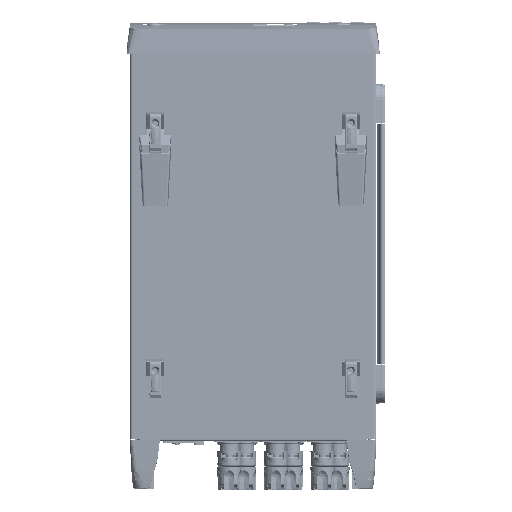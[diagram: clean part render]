
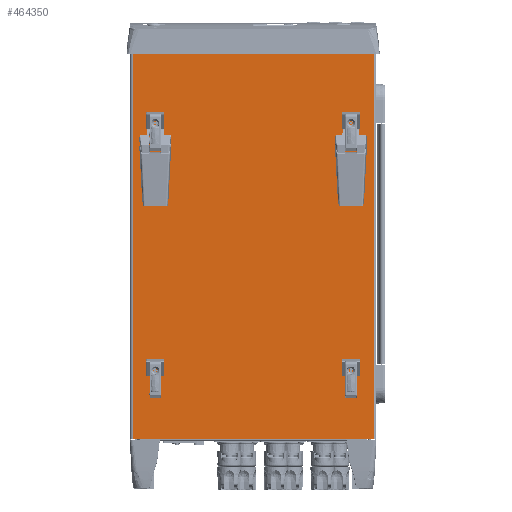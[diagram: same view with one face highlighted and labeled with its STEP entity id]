
A CAD part, front view. The second image highlights one B-rep face of the part: STEP entity #464350.
In plain terms, the highlighted planar face has unit normal (0, -1, 0).
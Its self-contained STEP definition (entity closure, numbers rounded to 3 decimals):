
#463326=DIRECTION('',(1.,0.,0.));
#463327=VECTOR('',#463326,24.);
#463328=CARTESIAN_POINT('',(-104.6,-63.2,-334.8));
#463329=LINE('',#463328,#463327);
#463434=DIRECTION('',(1.,0.,0.));
#463435=VECTOR('',#463434,209.2);
#463436=CARTESIAN_POINT('',(-104.6,-63.2,4.5));
#463437=LINE('',#463436,#463435);
#463438=DIRECTION('',(0.,0.,-1.));
#463439=VECTOR('',#463438,339.3);
#463440=CARTESIAN_POINT('',(-104.6,-63.2,4.5));
#463441=LINE('',#463440,#463439);
#463442=DIRECTION('',(0.,0.,-1.));
#463443=VECTOR('',#463442,339.3);
#463444=CARTESIAN_POINT('',(104.6,-63.2,4.5));
#463445=LINE('',#463444,#463443);
#463446=CARTESIAN_POINT('',(-85.,-63.2,-60.));
#463447=DIRECTION('',(0.,1.,0.));
#463448=DIRECTION('',(-1.,0.,0.));
#463449=AXIS2_PLACEMENT_3D('',#463446,#463447,#463448);
#463451=CARTESIAN_POINT('',(-85.,-63.2,-60.));
#463452=DIRECTION('',(0.,1.,0.));
#463453=DIRECTION('',(1.,0.,0.));
#463454=AXIS2_PLACEMENT_3D('',#463451,#463452,#463453);
#463456=CARTESIAN_POINT('',(-85.,-63.2,-80.));
#463457=DIRECTION('',(0.,1.,0.));
#463458=DIRECTION('',(-1.,0.,0.));
#463459=AXIS2_PLACEMENT_3D('',#463456,#463457,#463458);
#463461=CARTESIAN_POINT('',(-85.,-63.2,-80.));
#463462=DIRECTION('',(0.,1.,0.));
#463463=DIRECTION('',(1.,0.,0.));
#463464=AXIS2_PLACEMENT_3D('',#463461,#463462,#463463);
#463466=CARTESIAN_POINT('',(85.,-63.2,-60.));
#463467=DIRECTION('',(0.,1.,0.));
#463468=DIRECTION('',(-1.,0.,0.));
#463469=AXIS2_PLACEMENT_3D('',#463466,#463467,#463468);
#463471=CARTESIAN_POINT('',(85.,-63.2,-60.));
#463472=DIRECTION('',(0.,1.,0.));
#463473=DIRECTION('',(1.,0.,0.));
#463474=AXIS2_PLACEMENT_3D('',#463471,#463472,#463473);
#463476=CARTESIAN_POINT('',(85.,-63.2,-80.));
#463477=DIRECTION('',(0.,1.,0.));
#463478=DIRECTION('',(-1.,0.,0.));
#463479=AXIS2_PLACEMENT_3D('',#463476,#463477,#463478);
#463481=CARTESIAN_POINT('',(85.,-63.2,-80.));
#463482=DIRECTION('',(0.,1.,0.));
#463483=DIRECTION('',(1.,0.,0.));
#463484=AXIS2_PLACEMENT_3D('',#463481,#463482,#463483);
#463486=CARTESIAN_POINT('',(-85.,-63.2,-275.));
#463487=DIRECTION('',(0.,1.,0.));
#463488=DIRECTION('',(-1.,0.,0.));
#463489=AXIS2_PLACEMENT_3D('',#463486,#463487,#463488);
#463491=CARTESIAN_POINT('',(-85.,-63.2,-275.));
#463492=DIRECTION('',(0.,1.,0.));
#463493=DIRECTION('',(1.,0.,0.));
#463494=AXIS2_PLACEMENT_3D('',#463491,#463492,#463493);
#463496=CARTESIAN_POINT('',(-85.,-63.2,-295.));
#463497=DIRECTION('',(0.,1.,0.));
#463498=DIRECTION('',(-1.,0.,0.));
#463499=AXIS2_PLACEMENT_3D('',#463496,#463497,#463498);
#463501=CARTESIAN_POINT('',(-85.,-63.2,-295.));
#463502=DIRECTION('',(0.,1.,0.));
#463503=DIRECTION('',(1.,0.,0.));
#463504=AXIS2_PLACEMENT_3D('',#463501,#463502,#463503);
#463506=CARTESIAN_POINT('',(85.,-63.2,-275.));
#463507=DIRECTION('',(0.,1.,0.));
#463508=DIRECTION('',(-1.,0.,0.));
#463509=AXIS2_PLACEMENT_3D('',#463506,#463507,#463508);
#463511=CARTESIAN_POINT('',(85.,-63.2,-275.));
#463512=DIRECTION('',(0.,1.,0.));
#463513=DIRECTION('',(1.,0.,0.));
#463514=AXIS2_PLACEMENT_3D('',#463511,#463512,#463513);
#463516=CARTESIAN_POINT('',(85.,-63.2,-295.));
#463517=DIRECTION('',(0.,1.,0.));
#463518=DIRECTION('',(-1.,0.,0.));
#463519=AXIS2_PLACEMENT_3D('',#463516,#463517,#463518);
#463521=CARTESIAN_POINT('',(85.,-63.2,-295.));
#463522=DIRECTION('',(0.,1.,0.));
#463523=DIRECTION('',(1.,0.,0.));
#463524=AXIS2_PLACEMENT_3D('',#463521,#463522,#463523);
#463526=DIRECTION('',(1.,0.,0.));
#463527=VECTOR('',#463526,24.);
#463528=CARTESIAN_POINT('',(80.6,-63.2,-334.8));
#463529=LINE('',#463528,#463527);
#463574=DIRECTION('',(-1.,0.,0.));
#463575=VECTOR('',#463574,161.2);
#463576=CARTESIAN_POINT('',(80.6,-63.2,-334.8));
#463577=LINE('',#463576,#463575);
#463710=CARTESIAN_POINT('',(-104.6,-63.2,4.5));
#463711=CARTESIAN_POINT('',(104.6,-63.2,4.5));
#463712=VERTEX_POINT('',#463710);
#463713=VERTEX_POINT('',#463711);
#463735=CARTESIAN_POINT('',(80.6,-63.2,-334.8));
#463737=VERTEX_POINT('',#463735);
#463739=CARTESIAN_POINT('',(-80.6,-63.2,-334.8));
#463741=VERTEX_POINT('',#463739);
#463743=CARTESIAN_POINT('',(104.6,-63.2,-334.8));
#463745=VERTEX_POINT('',#463743);
#463746=CARTESIAN_POINT('',(-104.6,-63.2,-334.8));
#463748=VERTEX_POINT('',#463746);
#463758=CARTESIAN_POINT('',(-86.25,-63.2,-60.));
#463759=CARTESIAN_POINT('',(-83.75,-63.2,-60.));
#463760=VERTEX_POINT('',#463758);
#463761=VERTEX_POINT('',#463759);
#463762=CARTESIAN_POINT('',(-86.6,-63.2,-80.));
#463763=CARTESIAN_POINT('',(-83.4,-63.2,-80.));
#463764=VERTEX_POINT('',#463762);
#463765=VERTEX_POINT('',#463763);
#463766=CARTESIAN_POINT('',(83.75,-63.2,-60.));
#463767=CARTESIAN_POINT('',(86.25,-63.2,-60.));
#463768=VERTEX_POINT('',#463766);
#463769=VERTEX_POINT('',#463767);
#463770=CARTESIAN_POINT('',(83.4,-63.2,-80.));
#463771=CARTESIAN_POINT('',(86.6,-63.2,-80.));
#463772=VERTEX_POINT('',#463770);
#463773=VERTEX_POINT('',#463771);
#463774=CARTESIAN_POINT('',(-86.25,-63.2,-275.));
#463775=CARTESIAN_POINT('',(-83.75,-63.2,-275.));
#463776=VERTEX_POINT('',#463774);
#463777=VERTEX_POINT('',#463775);
#463778=CARTESIAN_POINT('',(-86.6,-63.2,-295.));
#463779=CARTESIAN_POINT('',(-83.4,-63.2,-295.));
#463780=VERTEX_POINT('',#463778);
#463781=VERTEX_POINT('',#463779);
#463782=CARTESIAN_POINT('',(83.75,-63.2,-275.));
#463783=CARTESIAN_POINT('',(86.25,-63.2,-275.));
#463784=VERTEX_POINT('',#463782);
#463785=VERTEX_POINT('',#463783);
#463786=CARTESIAN_POINT('',(83.4,-63.2,-295.));
#463787=CARTESIAN_POINT('',(86.6,-63.2,-295.));
#463788=VERTEX_POINT('',#463786);
#463789=VERTEX_POINT('',#463787);
#464287=CARTESIAN_POINT('',(-107.,-63.2,4.5));
#464288=DIRECTION('',(0.,-1.,0.));
#464289=DIRECTION('',(1.,0.,0.));
#464290=AXIS2_PLACEMENT_3D('',#464287,#464288,#464289);
#464291=PLANE('',#464290);
#464292=ORIENTED_EDGE('',*,*,#464107,.F.);
#464293=ORIENTED_EDGE('',*,*,#464139,.F.);
#464294=ORIENTED_EDGE('',*,*,#464282,.T.);
#464295=ORIENTED_EDGE('',*,*,#463941,.T.);
#464297=ORIENTED_EDGE('',*,*,#464296,.F.);
#464299=ORIENTED_EDGE('',*,*,#464298,.T.);
#464300=EDGE_LOOP('',(#464292,#464293,#464294,#464295,#464297,#464299));
#464301=FACE_OUTER_BOUND('',#464300,.F.);
#464303=ORIENTED_EDGE('',*,*,#464302,.F.);
#464305=ORIENTED_EDGE('',*,*,#464304,.F.);
#464306=EDGE_LOOP('',(#464303,#464305));
#464307=FACE_BOUND('',#464306,.F.);
#464309=ORIENTED_EDGE('',*,*,#464308,.F.);
#464311=ORIENTED_EDGE('',*,*,#464310,.F.);
#464312=EDGE_LOOP('',(#464309,#464311));
#464313=FACE_BOUND('',#464312,.F.);
#464315=ORIENTED_EDGE('',*,*,#464314,.F.);
#464317=ORIENTED_EDGE('',*,*,#464316,.F.);
#464318=EDGE_LOOP('',(#464315,#464317));
#464319=FACE_BOUND('',#464318,.F.);
#464321=ORIENTED_EDGE('',*,*,#464320,.F.);
#464323=ORIENTED_EDGE('',*,*,#464322,.F.);
#464324=EDGE_LOOP('',(#464321,#464323));
#464325=FACE_BOUND('',#464324,.F.);
#464327=ORIENTED_EDGE('',*,*,#464326,.F.);
#464329=ORIENTED_EDGE('',*,*,#464328,.F.);
#464330=EDGE_LOOP('',(#464327,#464329));
#464331=FACE_BOUND('',#464330,.F.);
#464333=ORIENTED_EDGE('',*,*,#464332,.F.);
#464335=ORIENTED_EDGE('',*,*,#464334,.F.);
#464336=EDGE_LOOP('',(#464333,#464335));
#464337=FACE_BOUND('',#464336,.F.);
#464339=ORIENTED_EDGE('',*,*,#464338,.F.);
#464341=ORIENTED_EDGE('',*,*,#464340,.F.);
#464342=EDGE_LOOP('',(#464339,#464341));
#464343=FACE_BOUND('',#464342,.F.);
#464345=ORIENTED_EDGE('',*,*,#464344,.F.);
#464347=ORIENTED_EDGE('',*,*,#464346,.F.);
#464348=EDGE_LOOP('',(#464345,#464347));
#464349=FACE_BOUND('',#464348,.F.);
#464350=ADVANCED_FACE('',(#464301,#464307,#464313,#464319,#464325,#464331,
#464337,#464343,#464349),#464291,.T.);
#463450=CIRCLE('',#463449,1.25);
#463455=CIRCLE('',#463454,1.25);
#463460=CIRCLE('',#463459,1.6);
#463465=CIRCLE('',#463464,1.6);
#463470=CIRCLE('',#463469,1.25);
#463475=CIRCLE('',#463474,1.25);
#463480=CIRCLE('',#463479,1.6);
#463485=CIRCLE('',#463484,1.6);
#463490=CIRCLE('',#463489,1.25);
#463495=CIRCLE('',#463494,1.25);
#463500=CIRCLE('',#463499,1.6);
#463505=CIRCLE('',#463504,1.6);
#463510=CIRCLE('',#463509,1.25);
#463515=CIRCLE('',#463514,1.25);
#463520=CIRCLE('',#463519,1.6);
#463525=CIRCLE('',#463524,1.6);
#463941=EDGE_CURVE('',#463713,#463745,#463445,.T.);
#464107=EDGE_CURVE('',#463748,#463741,#463329,.T.);
#464139=EDGE_CURVE('',#463712,#463748,#463441,.T.);
#464282=EDGE_CURVE('',#463712,#463713,#463437,.T.);
#464296=EDGE_CURVE('',#463737,#463745,#463529,.T.);
#464298=EDGE_CURVE('',#463737,#463741,#463577,.T.);
#464302=EDGE_CURVE('',#463760,#463761,#463450,.T.);
#464304=EDGE_CURVE('',#463761,#463760,#463455,.T.);
#464308=EDGE_CURVE('',#463764,#463765,#463460,.T.);
#464310=EDGE_CURVE('',#463765,#463764,#463465,.T.);
#464314=EDGE_CURVE('',#463768,#463769,#463470,.T.);
#464316=EDGE_CURVE('',#463769,#463768,#463475,.T.);
#464320=EDGE_CURVE('',#463772,#463773,#463480,.T.);
#464322=EDGE_CURVE('',#463773,#463772,#463485,.T.);
#464326=EDGE_CURVE('',#463776,#463777,#463490,.T.);
#464328=EDGE_CURVE('',#463777,#463776,#463495,.T.);
#464332=EDGE_CURVE('',#463780,#463781,#463500,.T.);
#464334=EDGE_CURVE('',#463781,#463780,#463505,.T.);
#464338=EDGE_CURVE('',#463784,#463785,#463510,.T.);
#464340=EDGE_CURVE('',#463785,#463784,#463515,.T.);
#464344=EDGE_CURVE('',#463788,#463789,#463520,.T.);
#464346=EDGE_CURVE('',#463789,#463788,#463525,.T.);
